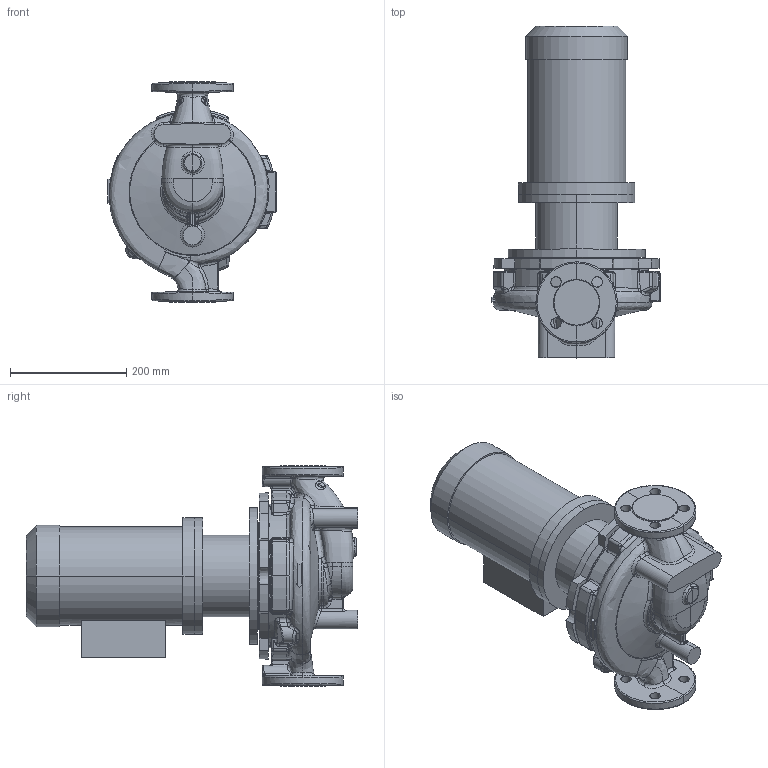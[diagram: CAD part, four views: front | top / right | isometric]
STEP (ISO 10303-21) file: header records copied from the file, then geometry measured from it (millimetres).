
FILE_DESCRIPTION (( 'STEP AP214' ), '1' );
FILE_NAME ('KRL 32-200-4-1,5.STEP', '2026-03-17T11:24:10', ( '' ), ( '' ), 'SwSTEP 2.0', 'SolidWorks 2016', '' );
FILE_SCHEMA (( 'AUTOMOTIVE_DESIGN' ));
Length unit declared in the file: millimetre
Products named in the file (1): KRL 32-200-4-1,5
Bounding box: 290 x 571.3 x 380 mm (x, y, z)
Volume: 17307909.2 mm3; surface area: 904393.2 mm2
Topology: 4 solids, 4 shells, 707 faces, 1709 edges, 1006 vertices
Faces by surface type: bspline 336, cylinder 155, plane 109, cone 45, torus 35, sphere 27
Entity records: 60736 total; most frequent: CARTESIAN_POINT 39439, ORIENTED_EDGE 3368, DIRECTION 2082, EDGE_CURVE 1684, VERTEX_POINT 1006, AXIS2_PLACEMENT_3D 899, EDGE_LOOP 744, B_SPLINE_CURVE_WITH_KNOTS 728
